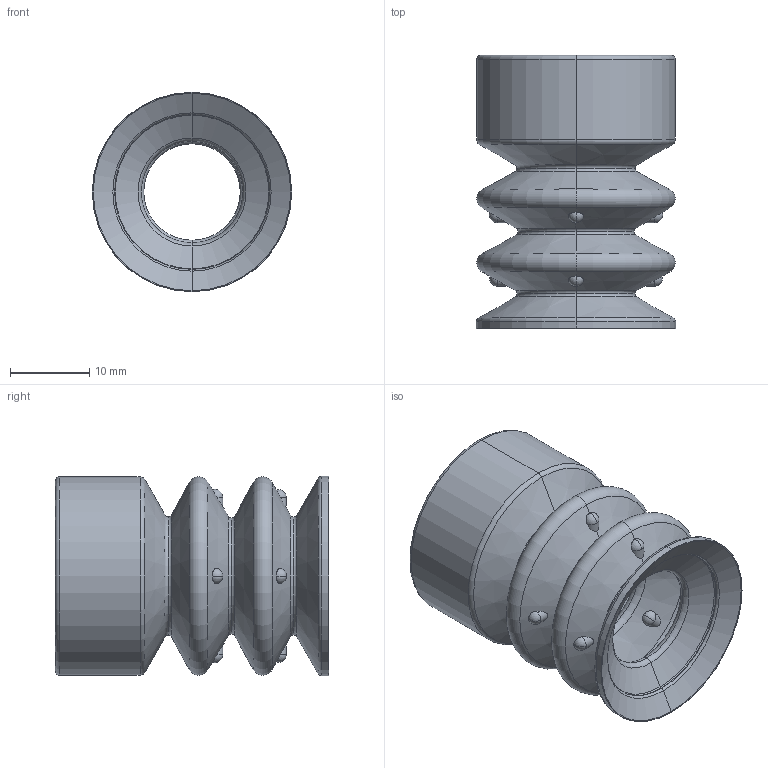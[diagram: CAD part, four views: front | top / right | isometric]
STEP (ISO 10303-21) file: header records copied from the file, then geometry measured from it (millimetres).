
FILE_DESCRIPTION (( 'STEP AP203' ), '1' );
FILE_NAME ('88 25--A.STEP', '2021-03-01T14:04:48', ( '' ), ( '' ), 'SwSTEP 2.0', 'SolidWorks 2021', '' );
FILE_SCHEMA (( 'CONFIG_CONTROL_DESIGN' ));
Length unit declared in the file: millimetre
Products named in the file (1): 88 25--A
Bounding box: 25.11 x 34.38 x 25.11 mm (x, y, z)
Volume: 5448.1 mm3; surface area: 6808.2 mm2
Topology: 1 solids, 1 shells, 143 faces, 310 edges, 184 vertices
Faces by surface type: torus 54, sphere 32, cylinder 28, cone 24, plane 5
Entity records: 4523 total; most frequent: CARTESIAN_POINT 1246, DIRECTION 764, ORIENTED_EDGE 620, AXIS2_PLACEMENT_3D 362, EDGE_CURVE 310, CIRCLE 218, VERTEX_POINT 184, EDGE_LOOP 160
